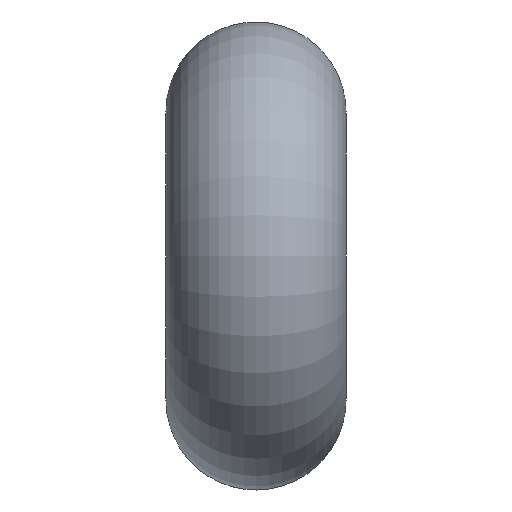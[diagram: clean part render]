
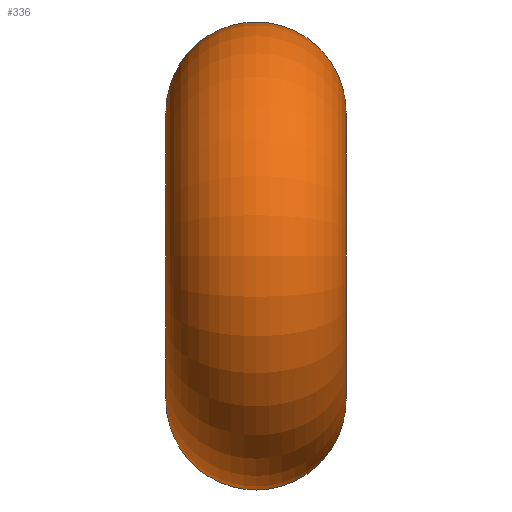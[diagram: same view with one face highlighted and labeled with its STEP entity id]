
A CAD part, left-side view. The second image highlights one B-rep face of the part: STEP entity #336.
In plain terms, the highlighted toroidal (fillet/blend) face has major radius 4 mm and minor radius 2.5 mm.
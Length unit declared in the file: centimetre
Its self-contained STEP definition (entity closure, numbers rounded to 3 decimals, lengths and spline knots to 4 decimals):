
#124=CARTESIAN_POINT('',(0.5458,-0.0018,-0.3438));
#125=VERTEX_POINT('',#124);
#151=CARTESIAN_POINT('',(0.4303,0.1646,-0.4475));
#152=VERTEX_POINT('',#151);
#160=CARTESIAN_POINT('',(0.4303,0.1646,-0.4475));
#161=CARTESIAN_POINT('',(0.4344,0.1802,-0.4322));
#162=CARTESIAN_POINT('',(0.4476,0.2051,-0.3938));
#163=CARTESIAN_POINT('',(0.4784,0.2167,-0.3366));
#164=CARTESIAN_POINT('',(0.5113,0.2092,-0.2968));
#165=CARTESIAN_POINT('',(0.545,0.1901,-0.2666));
#166=CARTESIAN_POINT('',(0.5875,0.1408,-0.2455));
#167=CARTESIAN_POINT('',(0.5973,0.0755,-0.2595));
#168=CARTESIAN_POINT('',(0.5779,0.0229,-0.2974));
#169=CARTESIAN_POINT('',(0.5597,0.0048,-0.3242));
#170=CARTESIAN_POINT('',(0.5458,-0.0018,-0.3438));
#171=B_SPLINE_CURVE_WITH_KNOTS('',3,(#160,#161,#162,#163,#164,#165,#166,#167,#168,#169,#170),.UNSPECIFIED.,.F.,.U.,(4,1,1,1,1,1,1,1,4),(0.1336,0.1651,0.1967,0.2124,0.2282,0.2597,0.307,0.3228,0.3543),.UNSPECIFIED.);
#172=EDGE_CURVE('',#152,#125,#171,.T.);
#214=CARTESIAN_POINT('',(0.5458,-0.0018,-0.3438));
#215=CARTESIAN_POINT('',(0.5324,-0.0082,-0.3627));
#216=CARTESIAN_POINT('',(0.5025,-0.0109,-0.4036));
#217=CARTESIAN_POINT('',(0.457,0.0204,-0.4641));
#218=CARTESIAN_POINT('',(0.4254,0.0918,-0.4927));
#219=CARTESIAN_POINT('',(0.4251,0.1445,-0.4674));
#220=CARTESIAN_POINT('',(0.4303,0.1646,-0.4475));
#221=B_SPLINE_CURVE_WITH_KNOTS('',3,(#214,#215,#216,#217,#218,#219,#220),.UNSPECIFIED.,.F.,.U.,(4,1,1,1,4),(0.0,0.078,0.156,0.2601,0.3641),.UNSPECIFIED.);
#222=EDGE_CURVE('',#125,#152,#221,.T.);
#275=CARTESIAN_POINT('',(0.0,0.0475,0.0));
#276=DIRECTION('',(0.0,1.0,0.0));
#277=DIRECTION('',(1.0,0.0,0.0));
#278=AXIS2_PLACEMENT_3D('',#275,#276,#277);
#279=TOROIDAL_SURFACE('',#278,0.4,0.25);
#280=CARTESIAN_POINT('',(0.4303,-0.0696,0.4475));
#281=VERTEX_POINT('',#280);
#282=CARTESIAN_POINT('',(0.5458,0.0968,0.3438));
#283=VERTEX_POINT('',#282);
#284=CARTESIAN_POINT('',(0.4303,-0.0696,0.4475));
#285=CARTESIAN_POINT('',(0.4344,-0.0852,0.4322));
#286=CARTESIAN_POINT('',(0.4476,-0.1101,0.3938));
#287=CARTESIAN_POINT('',(0.4784,-0.1217,0.3366));
#288=CARTESIAN_POINT('',(0.5113,-0.1142,0.2968));
#289=CARTESIAN_POINT('',(0.545,-0.0951,0.2666));
#290=CARTESIAN_POINT('',(0.5875,-0.0458,0.2455));
#291=CARTESIAN_POINT('',(0.5973,0.0195,0.2595));
#292=CARTESIAN_POINT('',(0.5779,0.0721,0.2974));
#293=CARTESIAN_POINT('',(0.5597,0.0902,0.3242));
#294=CARTESIAN_POINT('',(0.5458,0.0968,0.3438));
#295=B_SPLINE_CURVE_WITH_KNOTS('',3,(#284,#285,#286,#287,#288,#289,#290,#291,#292,#293,#294),.UNSPECIFIED.,.F.,.U.,(4,1,1,1,1,1,1,1,4),(0.1336,0.1651,0.1967,0.2124,0.2282,0.2597,0.307,0.3228,0.3543),.UNSPECIFIED.);
#296=EDGE_CURVE('',#281,#283,#295,.T.);
#297=ORIENTED_EDGE('',*,*,#296,.F.);
#298=CARTESIAN_POINT('',(0.5458,0.0968,0.3438));
#299=CARTESIAN_POINT('',(0.5324,0.1032,0.3627));
#300=CARTESIAN_POINT('',(0.5025,0.1059,0.4036));
#301=CARTESIAN_POINT('',(0.457,0.0746,0.4641));
#302=CARTESIAN_POINT('',(0.4254,0.0032,0.4927));
#303=CARTESIAN_POINT('',(0.4251,-0.0495,0.4674));
#304=CARTESIAN_POINT('',(0.4303,-0.0696,0.4475));
#305=B_SPLINE_CURVE_WITH_KNOTS('',3,(#298,#299,#300,#301,#302,#303,#304),.UNSPECIFIED.,.F.,.U.,(4,1,1,1,4),(0.0,0.078,0.156,0.2601,0.3641),.UNSPECIFIED.);
#306=EDGE_CURVE('',#283,#281,#305,.T.);
#307=ORIENTED_EDGE('',*,*,#306,.F.);
#308=EDGE_LOOP('',(#297,#307));
#309=FACE_OUTER_BOUND('',#308,.T.);
#310=CARTESIAN_POINT('',(0.4,-0.2025,0.));
#311=VERTEX_POINT('',#310);
#312=CARTESIAN_POINT('',(0.0,-0.2025,0.0));
#313=DIRECTION('',(0.0,1.0,0.0));
#314=DIRECTION('',(-1.0,0.0,0.0));
#315=AXIS2_PLACEMENT_3D('',#312,#313,#314);
#316=CIRCLE('',#315,0.4);
#317=EDGE_CURVE('',#311,#311,#316,.T.);
#318=ORIENTED_EDGE('',*,*,#317,.T.);
#319=EDGE_LOOP('',(#318));
#320=FACE_BOUND('',#319,.T.);
#321=CARTESIAN_POINT('',(0.4,0.2975,0.));
#322=VERTEX_POINT('',#321);
#323=CARTESIAN_POINT('',(0.0,0.2975,0.0));
#324=DIRECTION('',(0.0,-1.0,0.0));
#325=DIRECTION('',(-1.0,0.0,0.0));
#326=AXIS2_PLACEMENT_3D('',#323,#324,#325);
#327=CIRCLE('',#326,0.4);
#328=EDGE_CURVE('',#322,#322,#327,.T.);
#329=ORIENTED_EDGE('',*,*,#328,.T.);
#330=EDGE_LOOP('',(#329));
#331=FACE_BOUND('',#330,.T.);
#332=ORIENTED_EDGE('',*,*,#172,.F.);
#333=ORIENTED_EDGE('',*,*,#222,.F.);
#334=EDGE_LOOP('',(#332,#333));
#335=FACE_BOUND('',#334,.T.);
#336=ADVANCED_FACE('',(#309,#320,#331,#335),#279,.T.);
